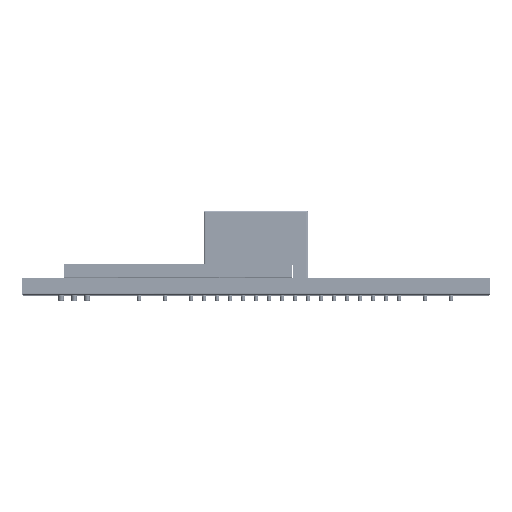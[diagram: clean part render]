
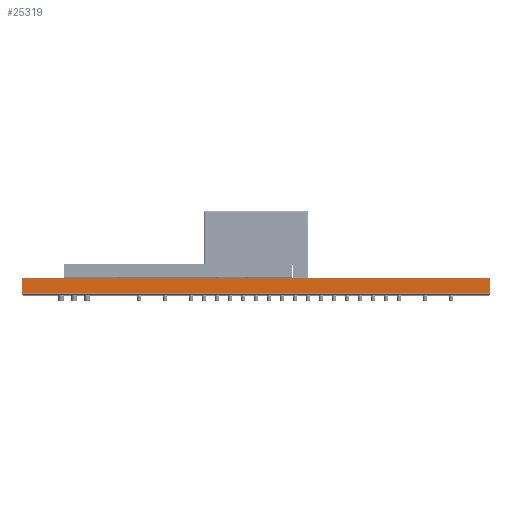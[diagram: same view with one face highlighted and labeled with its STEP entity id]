
A CAD part, top view. The second image highlights one B-rep face of the part: STEP entity #25319.
In plain terms, the highlighted planar face has unit normal (0, 0.001, 1) as drawn and (-1, 0, 0) by its records, which use the part's own axes.
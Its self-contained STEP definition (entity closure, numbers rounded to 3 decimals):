
#18326=DIRECTION('',(0.,0.,1.));
#18327=VECTOR('',#18326,14.5);
#18328=CARTESIAN_POINT('',(-150.,225.,-16.));
#18329=LINE('',#18328,#18327);
#18346=DIRECTION('',(0.,0.,1.));
#18347=VECTOR('',#18346,14.5);
#18348=CARTESIAN_POINT('',(-150.,-225.,-16.));
#18349=LINE('',#18348,#18347);
#18350=DIRECTION('',(0.,-1.,0.));
#18351=VECTOR('',#18350,450.);
#18352=CARTESIAN_POINT('',(-150.,225.,-16.));
#18353=LINE('',#18352,#18351);
#18373=DIRECTION('',(0.,-1.,0.));
#18374=VECTOR('',#18373,450.);
#18375=CARTESIAN_POINT('',(-150.,225.,-1.5));
#18376=LINE('',#18375,#18374);
#22091=CARTESIAN_POINT('',(-150.,-225.,-16.));
#22093=VERTEX_POINT('',#22091);
#22369=CARTESIAN_POINT('',(-150.,225.,-1.5));
#22371=VERTEX_POINT('',#22369);
#22715=CARTESIAN_POINT('',(-150.,225.,-16.));
#22716=VERTEX_POINT('',#22715);
#22905=CARTESIAN_POINT('',(-150.,-225.,-1.5));
#22906=VERTEX_POINT('',#22905);
#25306=CARTESIAN_POINT('',(-150.,0.,0.));
#25307=DIRECTION('',(-1.,0.,0.));
#25308=DIRECTION('',(0.,0.,1.));
#25309=AXIS2_PLACEMENT_3D('',#25306,#25307,#25308);
#25310=PLANE('',#25309);
#25312=ORIENTED_EDGE('',*,*,#25311,.T.);
#25314=ORIENTED_EDGE('',*,*,#25313,.F.);
#25315=ORIENTED_EDGE('',*,*,#25297,.F.);
#25316=ORIENTED_EDGE('',*,*,#25270,.T.);
#25317=EDGE_LOOP('',(#25312,#25314,#25315,#25316));
#25318=FACE_OUTER_BOUND('',#25317,.F.);
#25270=EDGE_CURVE('',#22716,#22371,#18329,.T.);
#25297=EDGE_CURVE('',#22716,#22093,#18353,.T.);
#25311=EDGE_CURVE('',#22371,#22906,#18376,.T.);
#25313=EDGE_CURVE('',#22093,#22906,#18349,.T.);
#25319=ADVANCED_FACE('',(#25318),#25310,.T.);
